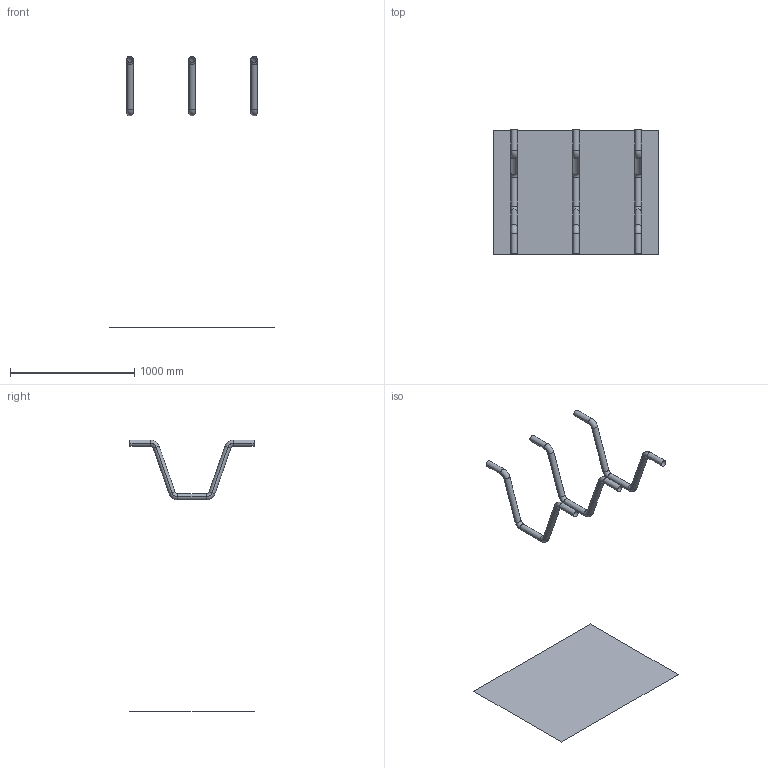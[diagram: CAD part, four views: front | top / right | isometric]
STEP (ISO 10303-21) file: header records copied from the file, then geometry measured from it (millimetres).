
FILE_DESCRIPTION(('CATIA V5 STEP Exchange'),'2;1');
FILE_NAME('C:\_Andres\UNIVERSIDAD\IQS\ASIGNATURAS\DAO\EXF\EXF-16172c\2inicio\Sarrió_Mercade_Ej08_v33.stp','2017-03-05T21:54:58+00:00',('none'),('none'),'CATIA Version 5-6 Release 2014 SP1 HF18','CATIA V5 STEP AP203','none');
FILE_SCHEMA(('CONFIG_CONTROL_DESIGN'));
Length unit declared in the file: millimetre
Products named in the file (1): Sarrió_Mercade_Ej08_v33
Bounding box: 1330 x 1000 x 2192 mm (x, y, z)
Surface area: 2074180.7 mm2 (no closed solid volume)
Topology: 0 solids, 4 shells, 55 faces, 118 edges, 64 vertices
Faces by surface type: cylinder 30, torus 24, plane 1
Entity records: 1283 total; most frequent: ORIENTED_EDGE 220, CARTESIAN_POINT 208, DIRECTION 168, EDGE_CURVE 118, AXIS2_PLACEMENT_3D 110, CIRCLE 84, VERTEX_POINT 64, ADVANCED_FACE 55
